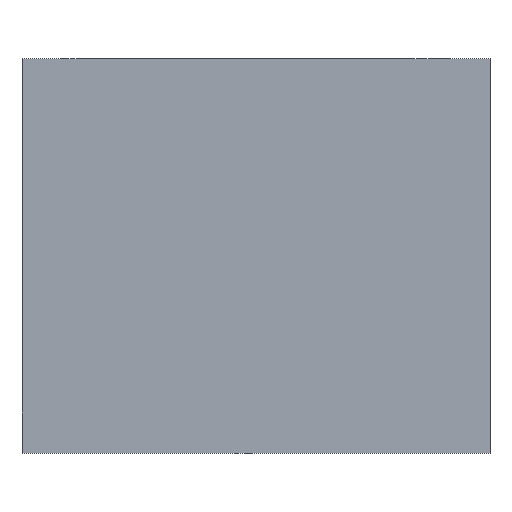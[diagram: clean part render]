
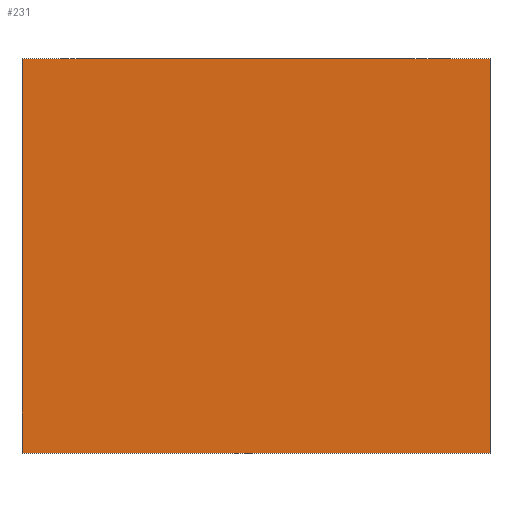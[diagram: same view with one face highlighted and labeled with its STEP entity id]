
A CAD part, top view. The second image highlights one B-rep face of the part: STEP entity #231.
In plain terms, the highlighted planar face has unit normal (0, 0, 1).
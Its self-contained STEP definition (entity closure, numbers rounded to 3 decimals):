
#42 = VERTEX_POINT('',#43);
#43 = CARTESIAN_POINT('',(-28.45,29.05,41.5));
#50 = PLANE('',#51);
#51 = AXIS2_PLACEMENT_3D('',#52,#53,#54);
#52 = CARTESIAN_POINT('',(-28.45,29.05,38.2));
#53 = DIRECTION('',(1.,0.,0.));
#54 = DIRECTION('',(0.,0.,1.));
#62 = PLANE('',#63);
#63 = AXIS2_PLACEMENT_3D('',#64,#65,#66);
#64 = CARTESIAN_POINT('',(-28.45,29.05,38.2));
#65 = DIRECTION('',(0.,1.,0.));
#66 = DIRECTION('',(0.,0.,1.));
#103 = VERTEX_POINT('',#104);
#104 = CARTESIAN_POINT('',(-28.45,36.55,41.5));
#118 = PLANE('',#119);
#119 = AXIS2_PLACEMENT_3D('',#120,#121,#122);
#120 = CARTESIAN_POINT('',(-28.45,36.55,38.2));
#121 = DIRECTION('',(0.,1.,0.));
#122 = DIRECTION('',(0.,0.,1.));
#130 = EDGE_CURVE('',#42,#103,#131,.T.);
#131 = SURFACE_CURVE('',#132,(#136,#143),.PCURVE_S1.);
#132 = LINE('',#133,#134);
#133 = CARTESIAN_POINT('',(-28.45,29.05,41.5));
#134 = VECTOR('',#135,1.);
#135 = DIRECTION('',(0.,1.,0.));
#136 = PCURVE('',#50,#137);
#137 = DEFINITIONAL_REPRESENTATION('',(#138),#142);
#138 = LINE('',#139,#140);
#139 = CARTESIAN_POINT('',(3.3,0.));
#140 = VECTOR('',#141,1.);
#141 = DIRECTION('',(0.,-1.));
#142 = ( GEOMETRIC_REPRESENTATION_CONTEXT(2) 
PARAMETRIC_REPRESENTATION_CONTEXT() REPRESENTATION_CONTEXT('2D SPACE',''
  ) );
#143 = PCURVE('',#144,#149);
#144 = PLANE('',#145);
#145 = AXIS2_PLACEMENT_3D('',#146,#147,#148);
#146 = CARTESIAN_POINT('',(-28.45,29.05,41.5));
#147 = DIRECTION('',(0.,0.,1.));
#148 = DIRECTION('',(1.,0.,0.));
#149 = DEFINITIONAL_REPRESENTATION('',(#150),#154);
#150 = LINE('',#151,#152);
#151 = CARTESIAN_POINT('',(0.,0.));
#152 = VECTOR('',#153,1.);
#153 = DIRECTION('',(0.,1.));
#154 = ( GEOMETRIC_REPRESENTATION_CONTEXT(2) 
PARAMETRIC_REPRESENTATION_CONTEXT() REPRESENTATION_CONTEXT('2D SPACE',''
  ) );
#183 = EDGE_CURVE('',#42,#184,#186,.T.);
#184 = VERTEX_POINT('',#185);
#185 = CARTESIAN_POINT('',(-19.55,29.05,41.5));
#186 = SURFACE_CURVE('',#187,(#191,#198),.PCURVE_S1.);
#187 = LINE('',#188,#189);
#188 = CARTESIAN_POINT('',(-28.45,29.05,41.5));
#189 = VECTOR('',#190,1.);
#190 = DIRECTION('',(1.,0.,0.));
#191 = PCURVE('',#62,#192);
#192 = DEFINITIONAL_REPRESENTATION('',(#193),#197);
#193 = LINE('',#194,#195);
#194 = CARTESIAN_POINT('',(3.3,0.));
#195 = VECTOR('',#196,1.);
#196 = DIRECTION('',(0.,1.));
#197 = ( GEOMETRIC_REPRESENTATION_CONTEXT(2) 
PARAMETRIC_REPRESENTATION_CONTEXT() REPRESENTATION_CONTEXT('2D SPACE',''
  ) );
#198 = PCURVE('',#144,#199);
#199 = DEFINITIONAL_REPRESENTATION('',(#200),#204);
#200 = LINE('',#201,#202);
#201 = CARTESIAN_POINT('',(0.,0.));
#202 = VECTOR('',#203,1.);
#203 = DIRECTION('',(1.,0.));
#204 = ( GEOMETRIC_REPRESENTATION_CONTEXT(2) 
PARAMETRIC_REPRESENTATION_CONTEXT() REPRESENTATION_CONTEXT('2D SPACE',''
  ) );
#220 = PLANE('',#221);
#221 = AXIS2_PLACEMENT_3D('',#222,#223,#224);
#222 = CARTESIAN_POINT('',(-19.55,29.05,38.2));
#223 = DIRECTION('',(1.,0.,0.));
#224 = DIRECTION('',(0.,0.,1.));
#231 = ADVANCED_FACE('',(#232),#144,.T.);
#232 = FACE_BOUND('',#233,.T.);
#233 = EDGE_LOOP('',(#234,#235,#236,#259));
#234 = ORIENTED_EDGE('',*,*,#130,.F.);
#235 = ORIENTED_EDGE('',*,*,#183,.T.);
#236 = ORIENTED_EDGE('',*,*,#237,.T.);
#237 = EDGE_CURVE('',#184,#238,#240,.T.);
#238 = VERTEX_POINT('',#239);
#239 = CARTESIAN_POINT('',(-19.55,36.55,41.5));
#240 = SURFACE_CURVE('',#241,(#245,#252),.PCURVE_S1.);
#241 = LINE('',#242,#243);
#242 = CARTESIAN_POINT('',(-19.55,29.05,41.5));
#243 = VECTOR('',#244,1.);
#244 = DIRECTION('',(0.,1.,0.));
#245 = PCURVE('',#144,#246);
#246 = DEFINITIONAL_REPRESENTATION('',(#247),#251);
#247 = LINE('',#248,#249);
#248 = CARTESIAN_POINT('',(8.9,0.));
#249 = VECTOR('',#250,1.);
#250 = DIRECTION('',(0.,1.));
#251 = ( GEOMETRIC_REPRESENTATION_CONTEXT(2) 
PARAMETRIC_REPRESENTATION_CONTEXT() REPRESENTATION_CONTEXT('2D SPACE',''
  ) );
#252 = PCURVE('',#220,#253);
#253 = DEFINITIONAL_REPRESENTATION('',(#254),#258);
#254 = LINE('',#255,#256);
#255 = CARTESIAN_POINT('',(3.3,0.));
#256 = VECTOR('',#257,1.);
#257 = DIRECTION('',(0.,-1.));
#258 = ( GEOMETRIC_REPRESENTATION_CONTEXT(2) 
PARAMETRIC_REPRESENTATION_CONTEXT() REPRESENTATION_CONTEXT('2D SPACE',''
  ) );
#259 = ORIENTED_EDGE('',*,*,#260,.F.);
#260 = EDGE_CURVE('',#103,#238,#261,.T.);
#261 = SURFACE_CURVE('',#262,(#266,#273),.PCURVE_S1.);
#262 = LINE('',#263,#264);
#263 = CARTESIAN_POINT('',(-28.45,36.55,41.5));
#264 = VECTOR('',#265,1.);
#265 = DIRECTION('',(1.,0.,0.));
#266 = PCURVE('',#144,#267);
#267 = DEFINITIONAL_REPRESENTATION('',(#268),#272);
#268 = LINE('',#269,#270);
#269 = CARTESIAN_POINT('',(0.,7.5));
#270 = VECTOR('',#271,1.);
#271 = DIRECTION('',(1.,0.));
#272 = ( GEOMETRIC_REPRESENTATION_CONTEXT(2) 
PARAMETRIC_REPRESENTATION_CONTEXT() REPRESENTATION_CONTEXT('2D SPACE',''
  ) );
#273 = PCURVE('',#118,#274);
#274 = DEFINITIONAL_REPRESENTATION('',(#275),#279);
#275 = LINE('',#276,#277);
#276 = CARTESIAN_POINT('',(3.3,0.));
#277 = VECTOR('',#278,1.);
#278 = DIRECTION('',(0.,1.));
#279 = ( GEOMETRIC_REPRESENTATION_CONTEXT(2) 
PARAMETRIC_REPRESENTATION_CONTEXT() REPRESENTATION_CONTEXT('2D SPACE',''
  ) );
